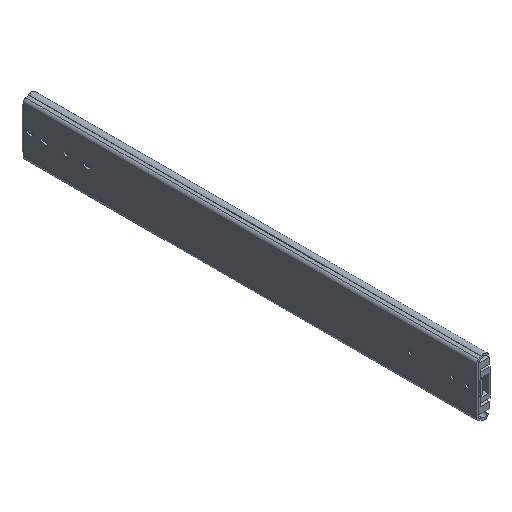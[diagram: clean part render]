
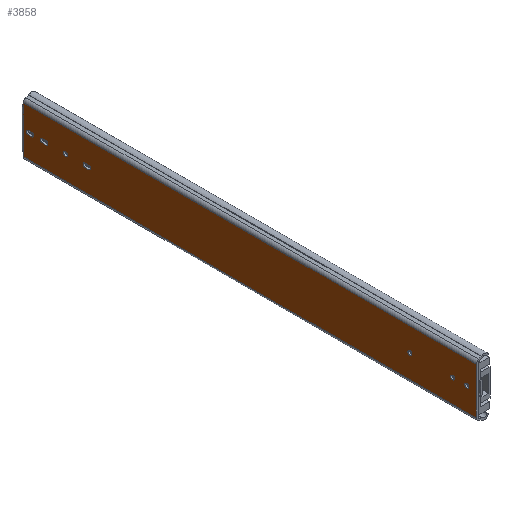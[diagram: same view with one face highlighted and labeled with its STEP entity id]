
A CAD part, isometric view. The second image highlights one B-rep face of the part: STEP entity #3858.
In plain terms, the highlighted planar face has unit normal (-1, 0, 0).
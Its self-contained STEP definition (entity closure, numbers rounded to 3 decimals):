
#343=LINE('',#6565,#726);
#350=LINE('',#6594,#733);
#351=LINE('',#6599,#734);
#366=LINE('',#6646,#749);
#373=LINE('',#6671,#756);
#383=LINE('',#6700,#766);
#386=LINE('',#6722,#769);
#390=LINE('',#6734,#773);
#394=LINE('',#6750,#777);
#401=LINE('',#6769,#784);
#404=LINE('',#6778,#787);
#410=LINE('',#6809,#793);
#416=LINE('',#6825,#799);
#417=LINE('',#6827,#800);
#726=VECTOR('',#5431,1000.);
#733=VECTOR('',#5460,1000.);
#734=VECTOR('',#5465,1000.);
#749=VECTOR('',#5510,1000.);
#756=VECTOR('',#5535,1000.);
#766=VECTOR('',#5567,1000.);
#769=VECTOR('',#5590,1000.);
#773=VECTOR('',#5602,1000.);
#777=VECTOR('',#5620,1000.);
#784=VECTOR('',#5635,1000.);
#787=VECTOR('',#5646,1000.);
#793=VECTOR('',#5672,1000.);
#799=VECTOR('',#5692,1000.);
#800=VECTOR('',#5695,1000.);
#907=PLANE('',#4605);
#1961=ORIENTED_EDGE('',*,*,#2562,.F.);
#1962=ORIENTED_EDGE('',*,*,#2521,.T.);
#1963=ORIENTED_EDGE('',*,*,#2525,.F.);
#1964=ORIENTED_EDGE('',*,*,#2560,.T.);
#1965=ORIENTED_EDGE('',*,*,#2539,.T.);
#1966=ORIENTED_EDGE('',*,*,#2537,.T.);
#1967=ORIENTED_EDGE('',*,*,#2534,.T.);
#1968=ORIENTED_EDGE('',*,*,#2531,.T.);
#1969=ORIENTED_EDGE('',*,*,#2514,.F.);
#1970=ORIENTED_EDGE('',*,*,#2511,.F.);
#1971=ORIENTED_EDGE('',*,*,#2520,.F.);
#1972=ORIENTED_EDGE('',*,*,#2517,.F.);
#1973=ORIENTED_EDGE('',*,*,#2507,.F.);
#1974=ORIENTED_EDGE('',*,*,#2505,.F.);
#1975=ORIENTED_EDGE('',*,*,#2503,.F.);
#1976=ORIENTED_EDGE('',*,*,#2546,.F.);
#1977=ORIENTED_EDGE('',*,*,#2563,.T.);
#1978=ORIENTED_EDGE('',*,*,#2487,.F.);
#1979=ORIENTED_EDGE('',*,*,#2552,.T.);
#1980=ORIENTED_EDGE('',*,*,#2435,.T.);
#1981=ORIENTED_EDGE('',*,*,#2502,.T.);
#1982=ORIENTED_EDGE('',*,*,#2449,.F.);
#1983=ORIENTED_EDGE('',*,*,#2474,.F.);
#1984=ORIENTED_EDGE('',*,*,#2451,.T.);
#2435=EDGE_CURVE('',#2857,#2856,#343,.T.);
#2449=EDGE_CURVE('',#2867,#2866,#350,.T.);
#2451=EDGE_CURVE('',#2870,#2869,#351,.T.);
#2474=EDGE_CURVE('',#2870,#2867,#366,.T.);
#2487=EDGE_CURVE('',#2895,#2896,#373,.T.);
#2502=EDGE_CURVE('',#2856,#2866,#383,.T.);
#2503=EDGE_CURVE('',#2904,#2904,#3089,.T.);
#2505=EDGE_CURVE('',#2906,#2906,#3091,.T.);
#2507=EDGE_CURVE('',#2908,#2908,#3093,.T.);
#2511=EDGE_CURVE('',#2912,#2913,#386,.T.);
#2514=EDGE_CURVE('',#2913,#2915,#3096,.T.);
#2517=EDGE_CURVE('',#2915,#2917,#390,.T.);
#2520=EDGE_CURVE('',#2917,#2912,#3098,.T.);
#2521=EDGE_CURVE('',#2918,#2919,#3099,.T.);
#2525=EDGE_CURVE('',#2922,#2919,#394,.T.);
#2531=EDGE_CURVE('',#2925,#2927,#3102,.T.);
#2534=EDGE_CURVE('',#2929,#2925,#401,.T.);
#2537=EDGE_CURVE('',#2931,#2929,#3104,.T.);
#2539=EDGE_CURVE('',#2927,#2931,#404,.T.);
#2546=EDGE_CURVE('',#2938,#2938,#3107,.T.);
#2552=EDGE_CURVE('',#2895,#2857,#410,.T.);
#2560=EDGE_CURVE('',#2922,#2945,#3110,.T.);
#2562=EDGE_CURVE('',#2918,#2945,#416,.T.);
#2563=EDGE_CURVE('',#2869,#2896,#417,.T.);
#2856=VERTEX_POINT('',#6564);
#2857=VERTEX_POINT('',#6566);
#2866=VERTEX_POINT('',#6591);
#2867=VERTEX_POINT('',#6593);
#2869=VERTEX_POINT('',#6598);
#2870=VERTEX_POINT('',#6600);
#2895=VERTEX_POINT('',#6670);
#2896=VERTEX_POINT('',#6672);
#2904=VERTEX_POINT('',#6703);
#2906=VERTEX_POINT('',#6708);
#2908=VERTEX_POINT('',#6713);
#2912=VERTEX_POINT('',#6721);
#2913=VERTEX_POINT('',#6723);
#2915=VERTEX_POINT('',#6729);
#2917=VERTEX_POINT('',#6735);
#2918=VERTEX_POINT('',#6742);
#2919=VERTEX_POINT('',#6743);
#2922=VERTEX_POINT('',#6751);
#2925=VERTEX_POINT('',#6758);
#2927=VERTEX_POINT('',#6762);
#2929=VERTEX_POINT('',#6767);
#2931=VERTEX_POINT('',#6773);
#2938=VERTEX_POINT('',#6794);
#2945=VERTEX_POINT('',#6822);
#3089=CIRCLE('',#4559,2.6);
#3091=CIRCLE('',#4562,2.6);
#3093=CIRCLE('',#4565,2.6);
#3096=CIRCLE('',#4570,2.6);
#3098=CIRCLE('',#4574,2.6);
#3099=CIRCLE('',#4576,2.6);
#3102=CIRCLE('',#4581,2.619);
#3104=CIRCLE('',#4585,2.619);
#3107=CIRCLE('',#4591,2.6);
#3110=CIRCLE('',#4602,2.6);
#3338=EDGE_LOOP('',(#1961,#1962,#1963,#1964));
#3339=EDGE_LOOP('',(#1965,#1966,#1967,#1968));
#3340=EDGE_LOOP('',(#1969,#1970,#1971,#1972));
#3341=EDGE_LOOP('',(#1973));
#3342=EDGE_LOOP('',(#1974));
#3343=EDGE_LOOP('',(#1975));
#3344=EDGE_LOOP('',(#1976));
#3345=EDGE_LOOP('',(#1977,#1978,#1979,#1980,#1981,#1982,#1983,#1984));
#3579=FACE_BOUND('',#3338,.T.);
#3580=FACE_BOUND('',#3339,.T.);
#3581=FACE_BOUND('',#3340,.T.);
#3582=FACE_BOUND('',#3341,.T.);
#3583=FACE_BOUND('',#3342,.T.);
#3584=FACE_BOUND('',#3343,.T.);
#3585=FACE_BOUND('',#3344,.T.);
#3586=FACE_BOUND('',#3345,.T.);
#3858=ADVANCED_FACE('',(#3579,#3580,#3581,#3582,#3583,#3584,#3585,#3586),
#907,.F.);
#4559=AXIS2_PLACEMENT_3D('',#6702,#5570,#5571);
#4562=AXIS2_PLACEMENT_3D('',#6707,#5576,#5577);
#4565=AXIS2_PLACEMENT_3D('',#6712,#5582,#5583);
#4570=AXIS2_PLACEMENT_3D('',#6728,#5596,#5597);
#4574=AXIS2_PLACEMENT_3D('',#6739,#5608,#5609);
#4576=AXIS2_PLACEMENT_3D('',#6741,#5612,#5613);
#4581=AXIS2_PLACEMENT_3D('',#6763,#5629,#5630);
#4585=AXIS2_PLACEMENT_3D('',#6775,#5641,#5642);
#4591=AXIS2_PLACEMENT_3D('',#6793,#5659,#5660);
#4602=AXIS2_PLACEMENT_3D('',#6821,#5687,#5688);
#4605=AXIS2_PLACEMENT_3D('',#6829,#5697,#5698);
#5431=DIRECTION('',(0.,-1.,0.));
#5460=DIRECTION('',(0.,1.,0.));
#5465=DIRECTION('',(0.,1.,0.));
#5510=DIRECTION('',(0.,0.,-1.));
#5535=DIRECTION('',(0.,-1.,0.));
#5567=DIRECTION('',(0.,0.,-1.));
#5570=DIRECTION('',(-1.,0.,0.));
#5571=DIRECTION('',(0.,1.,0.));
#5576=DIRECTION('',(-1.,0.,0.));
#5577=DIRECTION('',(0.,1.,0.));
#5582=DIRECTION('',(-1.,0.,0.));
#5583=DIRECTION('',(0.,1.,0.));
#5590=DIRECTION('',(0.,-1.,0.));
#5596=DIRECTION('',(-1.,0.,0.));
#5597=DIRECTION('',(0.,1.,0.));
#5602=DIRECTION('',(0.,1.,0.));
#5608=DIRECTION('',(-1.,0.,0.));
#5609=DIRECTION('',(0.,-1.,0.));
#5612=DIRECTION('',(1.,0.,0.));
#5613=DIRECTION('',(0.,0.,-1.));
#5620=DIRECTION('',(0.,1.,0.));
#5629=DIRECTION('',(1.,0.,0.));
#5630=DIRECTION('',(0.,0.,-1.));
#5635=DIRECTION('',(0.,1.,0.));
#5641=DIRECTION('',(1.,0.,0.));
#5642=DIRECTION('',(0.,0.,-1.));
#5646=DIRECTION('',(0.,-1.,0.));
#5659=DIRECTION('',(-1.,0.,0.));
#5660=DIRECTION('',(0.,1.,0.));
#5672=DIRECTION('',(0.,0.,-1.));
#5687=DIRECTION('',(1.,0.,0.));
#5688=DIRECTION('',(0.,0.,-1.));
#5692=DIRECTION('',(0.,-1.,0.));
#5695=DIRECTION('',(0.,0.,-1.));
#5697=DIRECTION('',(1.,0.,0.));
#5698=DIRECTION('',(0.,0.,-1.));
#6564=CARTESIAN_POINT('',(0.,605.6,-26.15));
#6565=CARTESIAN_POINT('',(0.,606.1,-26.15));
#6566=CARTESIAN_POINT('',(0.,606.1,-26.15));
#6591=CARTESIAN_POINT('',(0.,605.6,-31.142));
#6593=CARTESIAN_POINT('',(0.,0.,-31.142));
#6594=CARTESIAN_POINT('',(0.,0.,-31.142));
#6598=CARTESIAN_POINT('',(0.,605.6,31.132));
#6599=CARTESIAN_POINT('',(0.,0.,31.132));
#6600=CARTESIAN_POINT('',(0.,0.,31.132));
#6646=CARTESIAN_POINT('',(0.,0.,31.132));
#6670=CARTESIAN_POINT('',(0.,606.1,26.15));
#6671=CARTESIAN_POINT('',(0.,606.1,26.15));
#6672=CARTESIAN_POINT('',(0.,605.6,26.15));
#6700=CARTESIAN_POINT('',(0.,605.6,31.132));
#6702=CARTESIAN_POINT('',(0.,31.75,-0.006));
#6703=CARTESIAN_POINT('',(0.,34.35,-0.006));
#6707=CARTESIAN_POINT('',(0.,88.9,-0.006));
#6708=CARTESIAN_POINT('',(0.,91.5,-0.006));
#6712=CARTESIAN_POINT('',(0.,549.3,-0.006));
#6713=CARTESIAN_POINT('',(0.,551.9,-0.006));
#6721=CARTESIAN_POINT('',(0.,523.,-2.605));
#6722=CARTESIAN_POINT('',(0.,523.,-2.605));
#6723=CARTESIAN_POINT('',(0.,518.4,-2.605));
#6728=CARTESIAN_POINT('',(0.,518.4,-0.005));
#6729=CARTESIAN_POINT('',(0.,518.4,2.595));
#6734=CARTESIAN_POINT('',(0.,523.,2.595));
#6735=CARTESIAN_POINT('',(0.,523.,2.595));
#6739=CARTESIAN_POINT('',(0.,523.,-0.005));
#6741=CARTESIAN_POINT('',(0.,599.2,-0.006));
#6742=CARTESIAN_POINT('',(0.,599.2,-2.606));
#6743=CARTESIAN_POINT('',(0.,599.2,2.594));
#6750=CARTESIAN_POINT('',(0.,0.,2.594));
#6751=CARTESIAN_POINT('',(0.,594.6,2.594));
#6758=CARTESIAN_POINT('',(0.,580.499,-2.606));
#6762=CARTESIAN_POINT('',(0.,580.499,2.594));
#6763=CARTESIAN_POINT('',(0.,580.181,-0.006));
#6767=CARTESIAN_POINT('',(0.,575.301,-2.606));
#6769=CARTESIAN_POINT('',(0.,0.,-2.606));
#6773=CARTESIAN_POINT('',(0.,575.301,2.594));
#6775=CARTESIAN_POINT('',(0.,575.619,-0.006));
#6778=CARTESIAN_POINT('',(0.,0.,2.594));
#6793=CARTESIAN_POINT('',(0.,12.7,-0.006));
#6794=CARTESIAN_POINT('',(0.,15.3,-0.006));
#6809=CARTESIAN_POINT('',(0.,606.1,26.15));
#6821=CARTESIAN_POINT('',(0.,594.6,-0.006));
#6822=CARTESIAN_POINT('',(0.,594.6,-2.606));
#6825=CARTESIAN_POINT('',(0.,0.,-2.606));
#6827=CARTESIAN_POINT('',(0.,605.6,31.132));
#6829=CARTESIAN_POINT('',(0.,0.,31.132));
